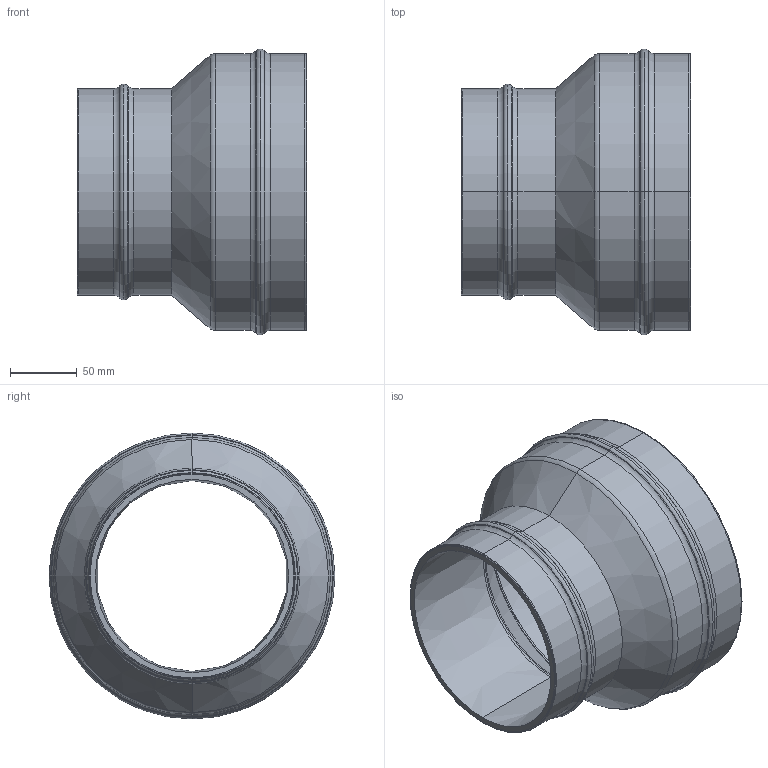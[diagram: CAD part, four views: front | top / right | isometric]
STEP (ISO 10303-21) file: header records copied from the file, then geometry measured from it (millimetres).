
FILE_DESCRIPTION((''),'2;1');
FILE_NAME('2012A92100','2017-05-12T',('Administrator'),(''),'PRO/ENGINEER BY PARAMETRIC TECHNOLOGY CORPORATION, 2009360','PRO/ENGINEER BY PARAMETRIC TECHNOLOGY CORPORATION, 2009360','');
FILE_SCHEMA(('AUTOMOTIVE_DESIGN_CC2 { 1 2 10303 214 -1 1 5 2 }'));
Length unit declared in the file: millimetre
Products named in the file (1): 2012A92100
Bounding box: 171.82 x 213.94 x 213.94 mm (x, y, z)
Volume: 635200.6 mm3; surface area: 206761.8 mm2
Topology: 1 solids, 1 shells, 60 faces, 120 edges, 62 vertices
Faces by surface type: torus 34, cone 16, cylinder 8, plane 2
Entity records: 1943 total; most frequent: DIRECTION 336, CARTESIAN_POINT 242, ORIENTED_EDGE 240, AXIS2_PLACEMENT_3D 156, PRESENTATION_STYLE_ASSIGNMENT 121, STYLED_ITEM 121, CURVE_STYLE 120, EDGE_CURVE 120
